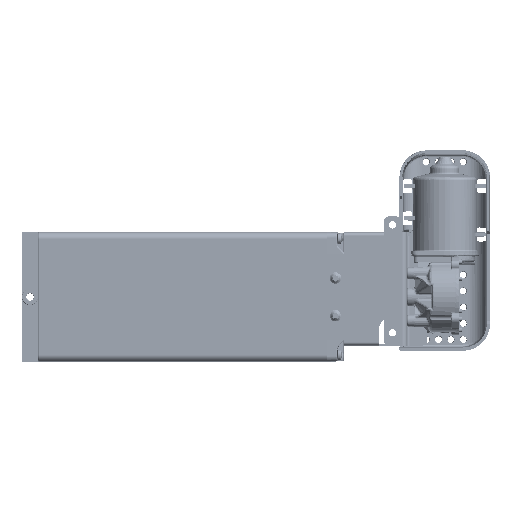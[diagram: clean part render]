
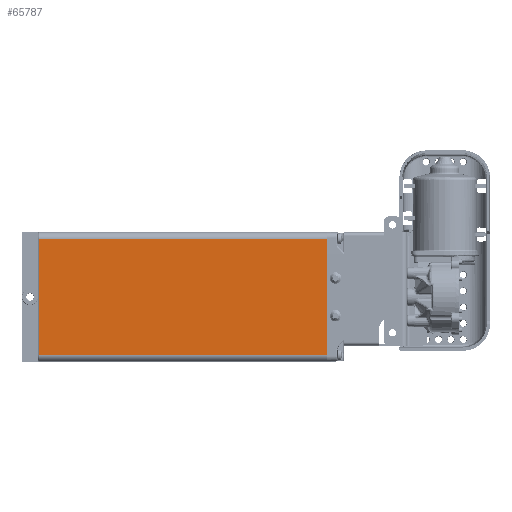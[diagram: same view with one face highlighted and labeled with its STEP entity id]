
A CAD part, top view. The second image highlights one B-rep face of the part: STEP entity #65787.
In plain terms, the highlighted planar face has unit normal (0, 0, 1).
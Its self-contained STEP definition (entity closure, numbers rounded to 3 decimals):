
#5909=LINE('',#113363,#8640);
#5910=LINE('',#113366,#8641);
#5911=LINE('',#113368,#8642);
#5912=LINE('',#113370,#8643);
#8640=VECTOR('',#76681,1000.);
#8641=VECTOR('',#76682,1000.);
#8642=VECTOR('',#76683,1000.);
#8643=VECTOR('',#76684,1000.);
#10760=PLANE('',#69664);
#15917=ORIENTED_EDGE('',*,*,#29805,.T.);
#15918=ORIENTED_EDGE('',*,*,#29806,.T.);
#15919=ORIENTED_EDGE('',*,*,#29807,.T.);
#15920=ORIENTED_EDGE('',*,*,#29808,.T.);
#29805=EDGE_CURVE('',#36977,#36978,#5909,.F.);
#29806=EDGE_CURVE('',#36978,#36979,#5910,.T.);
#29807=EDGE_CURVE('',#36979,#36980,#5911,.T.);
#29808=EDGE_CURVE('',#36980,#36977,#5912,.F.);
#36977=VERTEX_POINT('',#113364);
#36978=VERTEX_POINT('',#113365);
#36979=VERTEX_POINT('',#113367);
#36980=VERTEX_POINT('',#113369);
#43936=EDGE_LOOP('',(#15917,#15918,#15919,#15920));
#47958=FACE_BOUND('',#43936,.T.);
#65787=ADVANCED_FACE('',(#47958),#10760,.T.);
#69664=AXIS2_PLACEMENT_3D('',#113362,#76679,#76680);
#76679=DIRECTION('',(0.,0.,1.));
#76680=DIRECTION('',(1.,0.,0.));
#76681=DIRECTION('',(0.,-1.,0.));
#76682=DIRECTION('',(-1.,0.,0.));
#76683=DIRECTION('',(0.,-1.,0.));
#76684=DIRECTION('',(-1.,0.,0.));
#113362=CARTESIAN_POINT('',(60.,268.5,30.));
#113363=CARTESIAN_POINT('',(54.,268.5,30.));
#113364=CARTESIAN_POINT('',(54.,0.5,30.));
#113365=CARTESIAN_POINT('',(54.,268.,30.));
#113366=CARTESIAN_POINT('',(60.,268.,30.));
#113367=CARTESIAN_POINT('',(-54.,268.,30.));
#113368=CARTESIAN_POINT('',(-54.,268.5,30.));
#113369=CARTESIAN_POINT('',(-54.,0.5,30.));
#113370=CARTESIAN_POINT('',(54.,0.5,30.));
